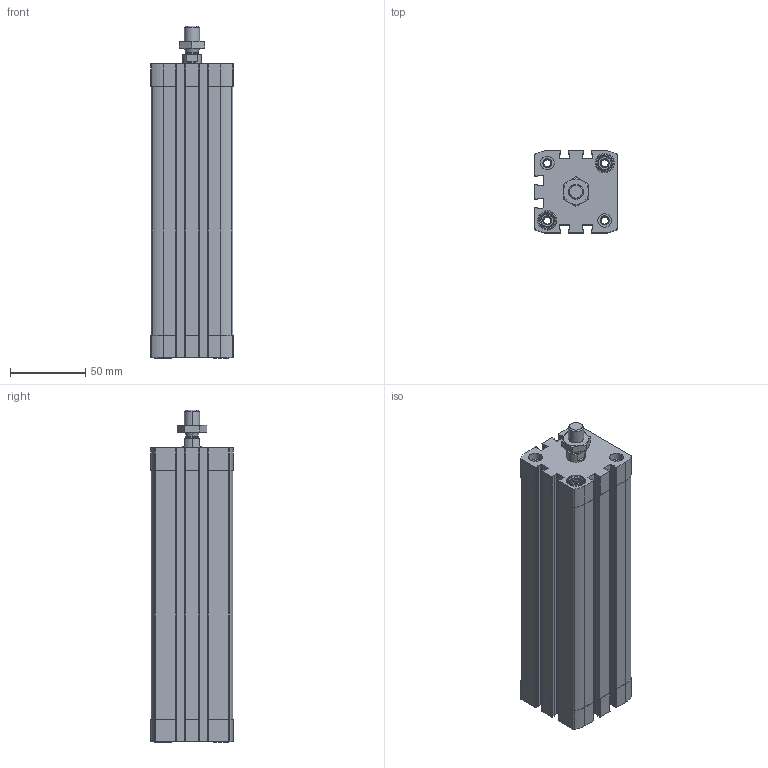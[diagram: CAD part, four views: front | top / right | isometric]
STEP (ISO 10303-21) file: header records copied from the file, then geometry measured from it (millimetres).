
FILE_DESCRIPTION (( 'STEP AP203' ), '1' );
FILE_NAME ('CCN40-150M.STEP', '2017-04-03T11:48:25', ( '' ), ( '' ), 'SwSTEP 2.0', 'SolidWorks 2016', '' );
FILE_SCHEMA (( 'CONFIG_CONTROL_DESIGN' ));
Length unit declared in the file: millimetre
Products named in the file (4): CCN-150_(KS); _DIN-439-B - M10x1.25(F); CCN40-150M; CCN-150---(Z)
Assembly tree (3 placements, depth 2):
  CCN40-150M
    CCN-150---(Z)
    CCN-150_(KS)
    _DIN-439-B - M10x1.25(F)
Bounding box: 54.5 x 54.5 x 220.1 mm (x, y, z)
Volume: 333900.3 mm3; surface area: 112656.4 mm2
Topology: 3 solids, 3 shells, 499 faces, 1336 edges, 874 vertices
Faces by surface type: plane 275, cylinder 172, cone 48, bspline 4
Entity records: 16266 total; most frequent: CARTESIAN_POINT 3123, DIRECTION 2724, ORIENTED_EDGE 2672, EDGE_CURVE 1336, AXIS2_PLACEMENT_3D 999, VERTEX_POINT 874, LINE 726, VECTOR 726
